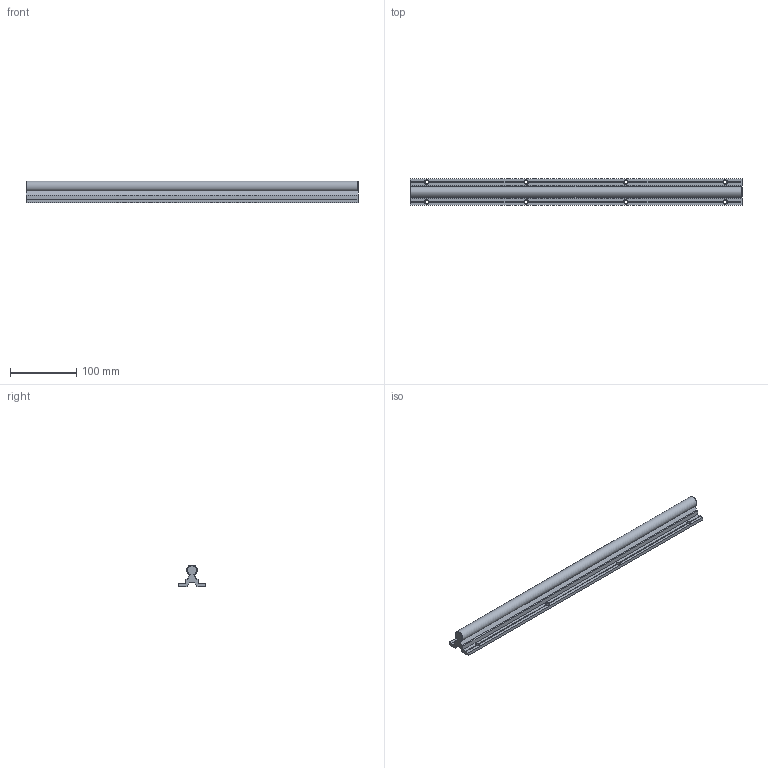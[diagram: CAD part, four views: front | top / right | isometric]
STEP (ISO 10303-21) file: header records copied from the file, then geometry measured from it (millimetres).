
FILE_DESCRIPTION(/* description */ (''),/* implementation_level */ '2;1');
FILE_NAME(/* name */ 'C:\Users\David\Desktop\stepFiles\Profilfuehrung\LFS16x500.stp',/* time_stamp */ '2018-06-24T15:18:11+02:00',/* author */ ('Buskamp'),/* organization */ (''),/* preprocessor_version */ 'ST-DEVELOPER v17',/* originating_system */ 'Autodesk Inventor 2019',/* authorisation */ '');
FILE_SCHEMA (('AUTOMOTIVE_DESIGN { 1 0 10303 214 3 1 1 }'));
Length unit declared in the file: millimetre
Products named in the file (1): Linearführung D16xvariabel
Bounding box: 500 x 40 x 32.97 mm (x, y, z)
Volume: 255153.7 mm3; surface area: 79163.9 mm2
Topology: 1 solids, 1 shells, 76 faces, 222 edges, 140 vertices
Faces by surface type: plane 49, cone 18, cylinder 9
Full cylindrical faces by diameter (mm): 5.5 x8
Entity records: 2545 total; most frequent: CARTESIAN_POINT 511, ORIENTED_EDGE 444, DIRECTION 416, EDGE_CURVE 222, AXIS2_PLACEMENT_3D 153, VERTEX_POINT 140, LINE 110, VECTOR 110
